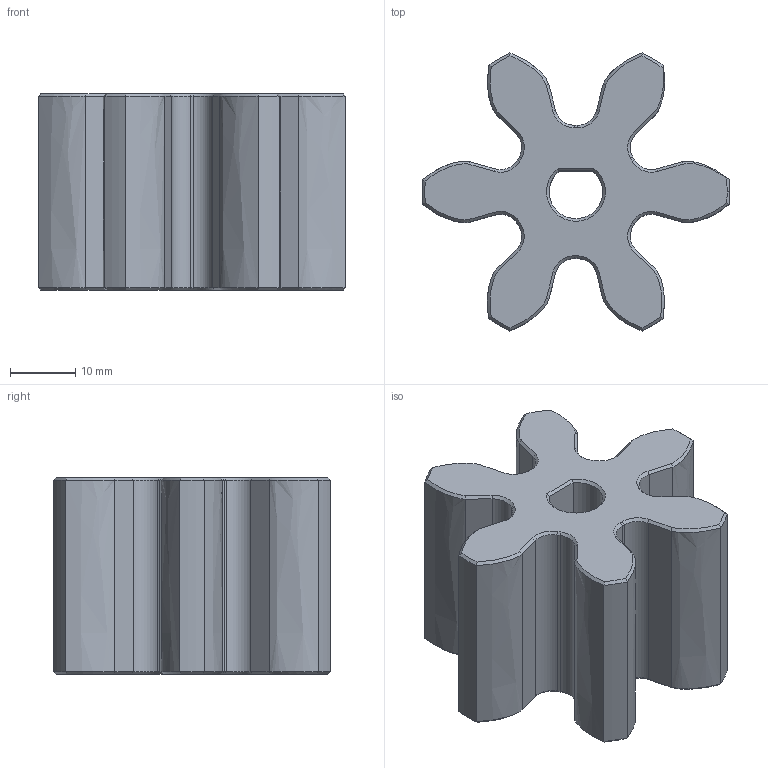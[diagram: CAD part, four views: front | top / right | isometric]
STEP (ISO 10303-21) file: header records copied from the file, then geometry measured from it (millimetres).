
FILE_DESCRIPTION(('FreeCAD Model'),'2;1');
FILE_NAME('Open CASCADE Shape Model','2022-10-12T14:20:04',(''),(''), 'Open CASCADE STEP processor 7.6','FreeCAD','Unknown');
FILE_SCHEMA(('AUTOMOTIVE_DESIGN { 1 0 10303 214 1 1 1 1 }'));
Length unit declared in the file: millimetre
Products named in the file (1): Chamfer
Bounding box: 46.99 x 42.44 x 30 mm (x, y, z)
Volume: 26862.6 mm3; surface area: 8927.8 mm2
Topology: 1 solids, 1 shells, 155 faces, 361 edges, 208 vertices
Faces by surface type: bspline 84, extrusion 27, cone 20, plane 14, cylinder 10
Entity records: 20311 total; most frequent: CARTESIAN_POINT 14450, ORIENTED_EDGE 722, PCURVE 722, DEFINITIONAL_REPRESENTATION 722, B_SPLINE_CURVE_WITH_KNOTS 701, DIRECTION 558, VECTOR 372, EDGE_CURVE 361
